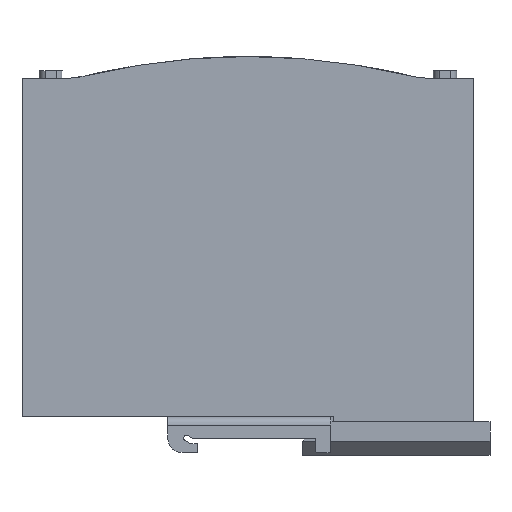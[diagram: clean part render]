
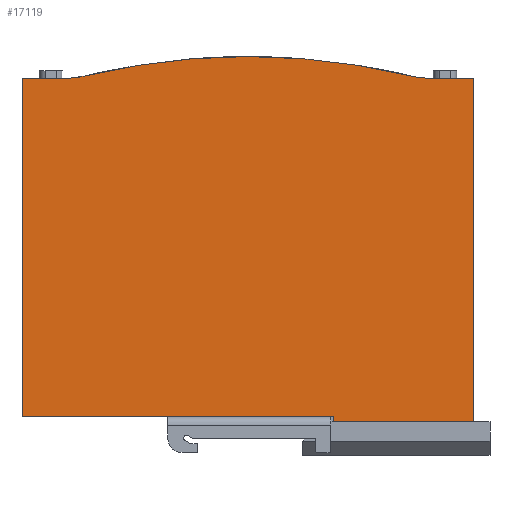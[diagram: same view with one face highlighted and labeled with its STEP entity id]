
A CAD part, left-side view. The second image highlights one B-rep face of the part: STEP entity #17119.
In plain terms, the highlighted planar face has unit normal (-1, 0, 0).
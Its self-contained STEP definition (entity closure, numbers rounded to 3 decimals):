
#709 = ORIENTED_EDGE ( 'NONE', *, *, #9183, .T. ) ;
#756 = ORIENTED_EDGE ( 'NONE', *, *, #2312, .T. ) ;
#919 = DIRECTION ( 'NONE',  ( -1., 0., 0. ) ) ;
#1579 = CARTESIAN_POINT ( 'NONE',  ( -5., 62.75, 100. ) ) ;
#1634 = ORIENTED_EDGE ( 'NONE', *, *, #14875, .T. ) ;
#1712 = LINE ( 'NONE', #20652, #22649 ) ;
#2207 = VERTEX_POINT ( 'NONE', #12013 ) ;
#2312 = EDGE_CURVE ( 'NONE', #21924, #18634, #31032, .T. ) ;
#2615 = CARTESIAN_POINT ( 'NONE',  ( -5., 125.5, 0. ) ) ;
#3345 = EDGE_CURVE ( 'NONE', #14625, #21924, #11173, .T. ) ;
#3770 = VECTOR ( 'NONE', #27421, 1000. ) ;
#4180 = CARTESIAN_POINT ( 'NONE',  ( -5., 0., -1.5 ) ) ;
#4371 = VERTEX_POINT ( 'NONE', #19758 ) ;
#4531 = CARTESIAN_POINT ( 'NONE',  ( -5., 17.263, 94.563 ) ) ;
#4555 = CARTESIAN_POINT ( 'NONE',  ( -5., 125.5, 94. ) ) ;
#5118 = EDGE_CURVE ( 'NONE', #15131, #14625, #29574, .T. ) ;
#5254 = DIRECTION ( 'NONE',  ( 0., 0., 1. ) ) ;
#5828 = EDGE_CURVE ( 'NONE', #23768, #2207, #15807, .T. ) ;
#6243 = VECTOR ( 'NONE', #21262, 1000. ) ;
#6540 = DIRECTION ( 'NONE',  ( 0., 0., 1. ) ) ;
#6670 = VECTOR ( 'NONE', #20804, 1000. ) ;
#6742 = CARTESIAN_POINT ( 'NONE',  ( -5., 12.55, 94. ) ) ;
#7472 = EDGE_CURVE ( 'NONE', #2207, #12924, #30910, .T. ) ;
#7732 = CARTESIAN_POINT ( 'NONE',  ( -5., 62.75, -93.005 ) ) ;
#7767 = ORIENTED_EDGE ( 'NONE', *, *, #10462, .T. ) ;
#8065 = DIRECTION ( 'NONE',  ( 0., -1., 0. ) ) ;
#8176 = VECTOR ( 'NONE', #8065, 1000. ) ;
#8311 = ORIENTED_EDGE ( 'NONE', *, *, #24098, .T. ) ;
#9183 = EDGE_CURVE ( 'NONE', #12290, #4371, #24277, .T. ) ;
#9623 = CARTESIAN_POINT ( 'NONE',  ( -5., 38.95, 0. ) ) ;
#9757 = EDGE_CURVE ( 'NONE', #18639, #12290, #24685, .T. ) ;
#10213 = AXIS2_PLACEMENT_3D ( 'NONE', #11321, #18677, #6540 ) ;
#10462 = EDGE_CURVE ( 'NONE', #4371, #15131, #25752, .T. ) ;
#10851 = CARTESIAN_POINT ( 'NONE',  ( -5., 12.55, 114. ) ) ;
#11076 = DIRECTION ( 'NONE',  ( 0., -1., 0. ) ) ;
#11173 = LINE ( 'NONE', #13732, #6243 ) ;
#11270 = CARTESIAN_POINT ( 'NONE',  ( -5., 112.95, 114. ) ) ;
#11321 = CARTESIAN_POINT ( 'NONE',  ( -5., 62.75, -93.005 ) ) ;
#11688 = DIRECTION ( 'NONE',  ( 0., 0., 1. ) ) ;
#11750 = CARTESIAN_POINT ( 'NONE',  ( -5., 112.95, 94. ) ) ;
#12013 = CARTESIAN_POINT ( 'NONE',  ( -5., 0., 94. ) ) ;
#12290 = VERTEX_POINT ( 'NONE', #1579 ) ;
#12586 = ORIENTED_EDGE ( 'NONE', *, *, #15379, .T. ) ;
#12924 = VERTEX_POINT ( 'NONE', #6742 ) ;
#13323 = DIRECTION ( 'NONE',  ( -1., 0., 0. ) ) ;
#13732 = CARTESIAN_POINT ( 'NONE',  ( -5., 125.5, 94. ) ) ;
#14625 = VERTEX_POINT ( 'NONE', #4555 ) ;
#14674 = DIRECTION ( 'NONE',  ( 0., 1., 0. ) ) ;
#14875 = EDGE_CURVE ( 'NONE', #18634, #20512, #15578, .T. ) ;
#15131 = VERTEX_POINT ( 'NONE', #11750 ) ;
#15349 = DIRECTION ( 'NONE',  ( 0., 0., 1. ) ) ;
#15379 = EDGE_CURVE ( 'NONE', #20512, #23768, #1712, .T. ) ;
#15413 = DIRECTION ( 'NONE',  ( 0., 0., 1. ) ) ;
#15578 = LINE ( 'NONE', #17828, #3770 ) ;
#15655 = ORIENTED_EDGE ( 'NONE', *, *, #5118, .T. ) ;
#15807 = LINE ( 'NONE', #4180, #6670 ) ;
#16593 = AXIS2_PLACEMENT_3D ( 'NONE', #7732, #919, #15413 ) ;
#17119 = ADVANCED_FACE ( 'NONE', ( #30209 ), #30359, .T. ) ;
#17185 = VECTOR ( 'NONE', #20610, 1000. ) ;
#17828 = CARTESIAN_POINT ( 'NONE',  ( -5., 38.95, 0. ) ) ;
#18070 = CARTESIAN_POINT ( 'NONE',  ( -5., 125.5, 0. ) ) ;
#18634 = VERTEX_POINT ( 'NONE', #9623 ) ;
#18639 = VERTEX_POINT ( 'NONE', #4531 ) ;
#18677 = DIRECTION ( 'NONE',  ( -1., 0., 0. ) ) ;
#19556 = CARTESIAN_POINT ( 'NONE',  ( -5., 112.95, 94. ) ) ;
#19758 = CARTESIAN_POINT ( 'NONE',  ( -5., 108.237, 94.563 ) ) ;
#20512 = VERTEX_POINT ( 'NONE', #22162 ) ;
#20562 = ORIENTED_EDGE ( 'NONE', *, *, #9757, .T. ) ;
#20610 = DIRECTION ( 'NONE',  ( 0., 1., 0. ) ) ;
#20652 = CARTESIAN_POINT ( 'NONE',  ( -5., 38.95, -1.5 ) ) ;
#20804 = DIRECTION ( 'NONE',  ( 0., 0., 1. ) ) ;
#21262 = DIRECTION ( 'NONE',  ( 0., 0., -1. ) ) ;
#21924 = VERTEX_POINT ( 'NONE', #2615 ) ;
#21960 = CARTESIAN_POINT ( 'NONE',  ( -5., 12.55, 114. ) ) ;
#22036 = AXIS2_PLACEMENT_3D ( 'NONE', #10851, #13323, #15349 ) ;
#22162 = CARTESIAN_POINT ( 'NONE',  ( -5., 38.95, -1.5 ) ) ;
#22649 = VECTOR ( 'NONE', #11076, 1000. ) ;
#22819 = ORIENTED_EDGE ( 'NONE', *, *, #7472, .T. ) ;
#22859 = CARTESIAN_POINT ( 'NONE',  ( -5., 0., 94. ) ) ;
#23768 = VERTEX_POINT ( 'NONE', #26776 ) ;
#23992 = AXIS2_PLACEMENT_3D ( 'NONE', #21960, #26964, #5254 ) ;
#24098 = EDGE_CURVE ( 'NONE', #12924, #18639, #30577, .T. ) ;
#24277 = CIRCLE ( 'NONE', #10213, 193.005 ) ;
#24685 = CIRCLE ( 'NONE', #16593, 193.005 ) ;
#24770 = ORIENTED_EDGE ( 'NONE', *, *, #3345, .T. ) ;
#24956 = ORIENTED_EDGE ( 'NONE', *, *, #5828, .T. ) ;
#25752 = CIRCLE ( 'NONE', #25953, 20. ) ;
#25953 = AXIS2_PLACEMENT_3D ( 'NONE', #11270, #30766, #11688 ) ;
#26776 = CARTESIAN_POINT ( 'NONE',  ( -5., 0., -1.5 ) ) ;
#26964 = DIRECTION ( 'NONE',  ( 1., 0., 0. ) ) ;
#27421 = DIRECTION ( 'NONE',  ( 0., 0., -1. ) ) ;
#28814 = EDGE_LOOP ( 'NONE', ( #756, #1634, #12586, #24956, #22819, #8311, #20562, #709, #7767, #15655, #24770 ) ) ;
#29574 = LINE ( 'NONE', #19556, #29934 ) ;
#29934 = VECTOR ( 'NONE', #14674, 1000. ) ;
#30209 = FACE_OUTER_BOUND ( 'NONE', #28814, .T. ) ;
#30359 = PLANE ( 'NONE',  #22036 ) ;
#30577 = CIRCLE ( 'NONE', #23992, 20. ) ;
#30766 = DIRECTION ( 'NONE',  ( 1., 0., 0. ) ) ;
#30910 = LINE ( 'NONE', #22859, #17185 ) ;
#31032 = LINE ( 'NONE', #18070, #8176 ) ;
